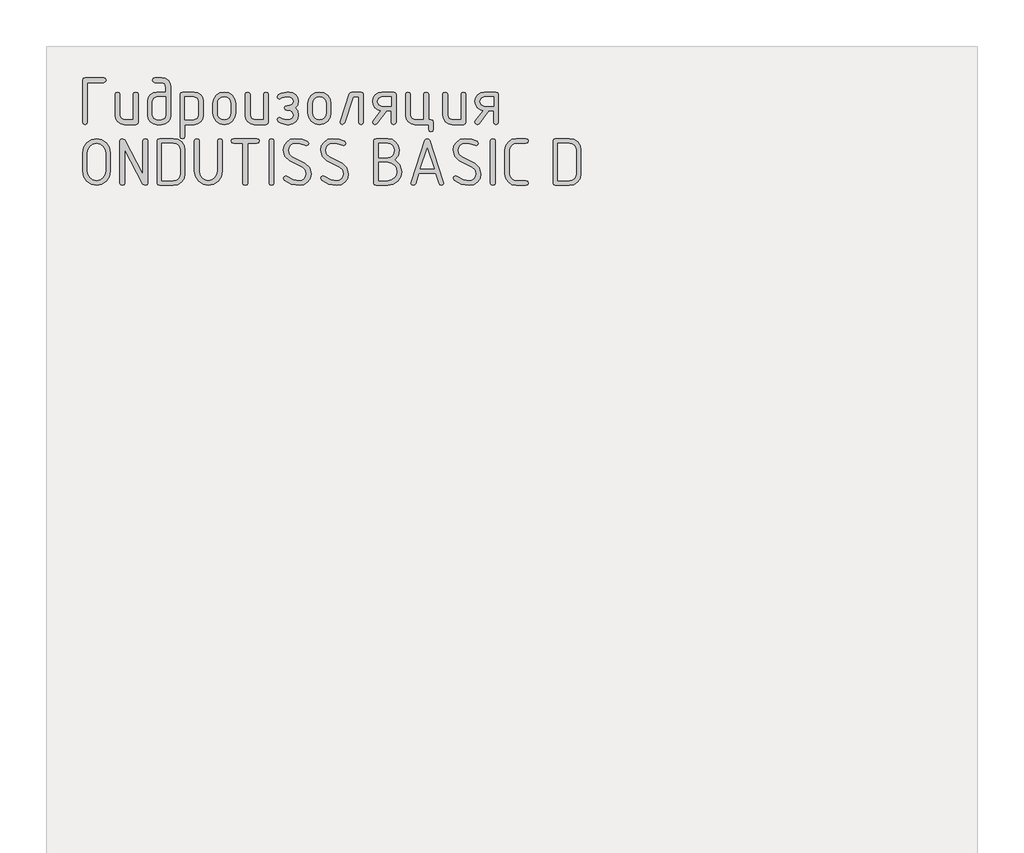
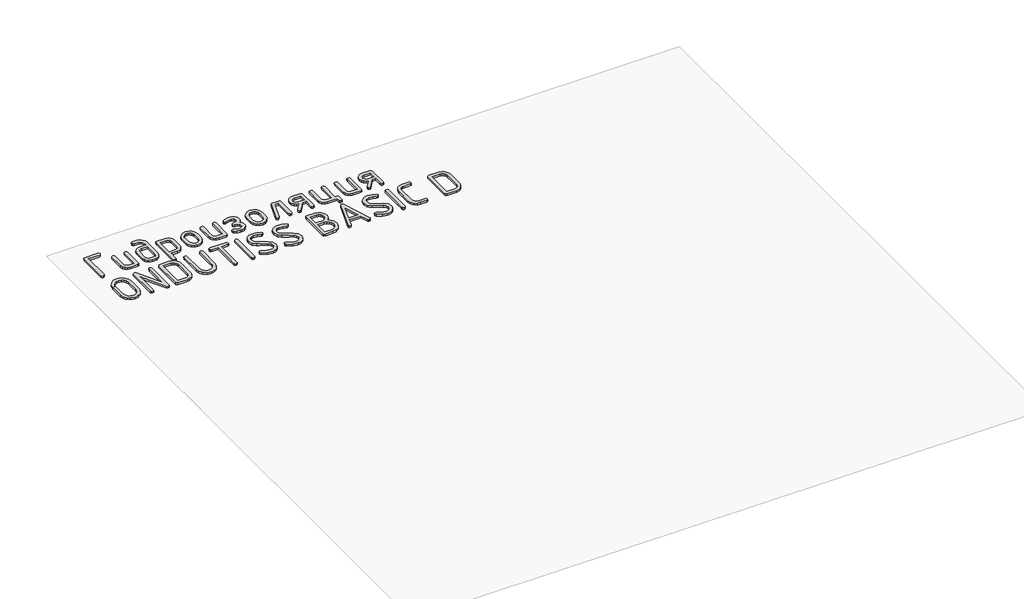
# One storey, part 31 of 42: 1 proxy.
"""IFC4 building model written with IfcOpenShell, lengths in millimetres."""

from ifc_helpers import new_model, si_unit, origin, origin_with_axes, place, context, project, spatial, polyline, outline, extrude, element, save

model = new_model("IFC4")

# Units and contexts
model_context = context("Model", 3, world=origin())
ifc_project = project(units=[si_unit("LENGTHUNIT", "METRE", prefix="MILLI")], contexts=[model_context])

# Site, building, storey
site = spatial("IfcSite", under=ifc_project)
building = spatial("IfcBuilding", under=site)
storey = spatial("IfcBuildingStorey", under=building, Name="Этаж 01", Elevation=0.0)

# Proxy
placement = place(None, origin())
element("IfcBuildingElementProxy", 1, Name="150 мм GOST Common", ObjectType="150 мм GOST Common", at=placement, inside=storey, context=model_context, shape_type="SweptSolid", body=[
    extrude(outline(polyline([(-4405.184039, -30691.2553022), (-4405.184039, -30819.2602353), (-4407.1017159, -30824.8934112), (-4412.8547466, -30826.7711365), (-4418.6077773, -30824.8834233), (-4420.5254542, -30819.2202837), (-4420.5254542, -30683.4647398), (-4418.6077773, -30677.8016002), (-4412.8547466, -30675.913887), (-4352.6876338, -30675.913887), (-4347.0544579, -30677.8315639), (-4345.1767326, -30683.5845946), (-4347.0544579, -30689.3376253), (-4352.6876338, -30691.2553022), (-4405.184039, -30691.2553022)])), origin_with_axes(), (0.0, 0.0, 1.0), 10.0),
    extrude(outline(polyline([(-4241.5422768, -30729.4090822), (-4241.5422768, -30819.3001869), (-4243.4000263, -30824.9033991), (-4248.9732748, -30826.7711365), (-4286.0483616, -30826.7711365), (-4297.5444351, -30824.6037621), (-4307.1028559, -30818.1016388), (-4313.5450517, -30808.443339), (-4315.6924503, -30796.8074349), (-4315.6924503, -30729.4090822), (-4313.7747734, -30723.80587), (-4308.0217427, -30721.9381326), (-4302.268712, -30723.80587), (-4300.3510351, -30729.4090822), (-4300.3510351, -30796.5277737), (-4296.0762137, -30807.0150692), (-4285.8486036, -30811.4297213), (-4256.883692, -30811.4297213), (-4256.883692, -30729.4090822), (-4254.9660151, -30723.80587), (-4249.2129844, -30721.9381326), (-4243.4599537, -30723.80587), (-4241.5422768, -30729.4090822)])), origin_with_axes(), (0.0, 0.0, 1.0), 10.0),
    extrude(outline(polyline([(-4136.709273, -30706.0773466), (-4136.709273, -30796.6076769), (-4138.8716535, -30808.2935205), (-4145.3587948, -30818.0217356), (-4154.9321975, -30824.5837863), (-4166.3533617, -30826.7711365), (-4181.2153577, -30826.7711365), (-4192.7114312, -30824.5887802), (-4202.269852, -30818.0417114), (-4208.7120478, -30808.3684298), (-4210.8594465, -30796.8074349), (-4210.8594465, -30751.9018342), (-4208.7170418, -30740.2659301), (-4202.2898278, -30730.6076303), (-4192.7963284, -30724.105507), (-4181.4550673, -30721.9381326), (-4152.0506882, -30721.9381326), (-4152.0506882, -30706.5967174), (-4156.2256306, -30695.6699543), (-4166.5531198, -30691.2553022), (-4188.2867913, -30691.2553022), (-4193.7102213, -30689.3376253), (-4195.5180313, -30683.5845946), (-4193.6802576, -30677.8315639), (-4188.1669365, -30675.913887), (-4166.1136521, -30675.913887), (-4154.7224516, -30678.1162191), (-4145.23894, -30684.7232153), (-4138.8416898, -30694.4664122), (-4136.709273, -30706.0773466)]), holes=[polyline([(-4152.0506882, -30796.6076769), (-4152.0506882, -30737.2795478), (-4181.0155997, -30737.2795478), (-4191.2831614, -30741.6142966), (-4195.5180313, -30752.1015922), (-4195.5180313, -30796.6076769), (-4191.2432098, -30807.0550209), (-4181.0155997, -30811.4297213), (-4166.5531198, -30811.4297213), (-4156.285558, -30807.0949725), (-4152.0506882, -30796.6076769)])]), origin_with_axes(), (0.0, 0.0, 1.0), 10.0),
    extrude(outline(polyline([(-4106.0264426, -30729.4889854), (-4104.1686931, -30723.8258458), (-4098.5954446, -30721.9381326), (-4061.5203579, -30721.9381326), (-4050.0242844, -30724.105507), (-4040.4658636, -30730.6076303), (-4034.0236678, -30740.2659301), (-4031.8762691, -30751.9018342), (-4031.8762691, -30796.8074349), (-4034.0086859, -30808.3684298), (-4040.4059362, -30818.0417114), (-4049.8894477, -30824.5887802), (-4061.2806483, -30826.7711365), (-4090.6850274, -30826.7711365), (-4090.6850274, -30865.1246745), (-4092.6027043, -30870.8777052), (-4098.355735, -30872.7953821), (-4104.1087657, -30870.9076689), (-4106.0264426, -30865.2445293), (-4106.0264426, -30729.4889854)]), holes=[polyline([(-4090.6850274, -30737.2795478), (-4090.6850274, -30811.4297213), (-4061.7201159, -30811.4297213), (-4051.4525542, -30807.0949725), (-4047.2176843, -30796.6076769), (-4047.2176843, -30752.1015922), (-4051.3926268, -30741.5543692), (-4061.7201159, -30737.2795478), (-4090.6850274, -30737.2795478)])]), origin_with_axes(), (0.0, 0.0, 1.0), 10.0),
    extrude(outline(polyline([(-4001.1934388, -30789.3364853), (-4001.1934388, -30759.3727838), (-3998.4817238, -30744.9802191), (-3990.3465788, -30732.8848716), (-3978.3660921, -30724.6748174), (-3964.118352, -30721.9381326), (-3949.7207934, -30724.6448537), (-3937.7702705, -30732.7650168), (-3929.7250166, -30744.8304006), (-3927.0432653, -30759.3727838), (-3927.0432653, -30789.3364853), (-3929.7549803, -30803.72905), (-3937.8901253, -30815.8243975), (-3949.8706119, -30824.0344517), (-3964.118352, -30826.7711365), (-3978.3660921, -30824.0344517), (-3990.3465788, -30815.8243975), (-3998.4817238, -30803.72905), (-4001.1934388, -30789.3364853)]), holes=[polyline([(-3942.3846805, -30788.8970177), (-3942.3846805, -30758.8933645), (-3943.9777506, -30750.2638185), (-3948.756961, -30742.9926269), (-3955.783449, -30738.0486162), (-3964.118352, -30736.4006126), (-3972.453255, -30738.0486162), (-3979.479743, -30742.9926269), (-3984.2589534, -30750.2638185), (-3985.8520236, -30758.8933645), (-3985.8520236, -30788.8970177), (-3984.2739353, -30797.606467), (-3979.5396704, -30804.8776585), (-3972.5281643, -30809.7917056), (-3964.118352, -30811.4297213), (-3955.783449, -30809.7817177), (-3948.756961, -30804.8377069), (-3943.9777506, -30797.5565275), (-3942.3846805, -30788.8970177)])]), origin_with_axes(), (0.0, 0.0, 1.0), 10.0),
    extrude(outline(polyline([(-3822.2102614, -30729.4090822), (-3822.2102614, -30819.3001869), (-3824.0680109, -30824.9033991), (-3829.6412594, -30826.7711365), (-3866.7163462, -30826.7711365), (-3878.2124197, -30824.6037621), (-3887.7708405, -30818.1016388), (-3894.2130363, -30808.443339), (-3896.3604349, -30796.8074349), (-3896.3604349, -30729.4090822), (-3894.442758, -30723.80587), (-3888.6897273, -30721.9381326), (-3882.9366966, -30723.80587), (-3881.0190197, -30729.4090822), (-3881.0190197, -30796.5277737), (-3876.7441983, -30807.0150692), (-3866.5165882, -30811.4297213), (-3837.5516766, -30811.4297213), (-3837.5516766, -30729.4090822), (-3835.6339997, -30723.80587), (-3829.880969, -30721.9381326), (-3824.1279383, -30723.80587), (-3822.2102614, -30729.4090822)])), origin_with_axes(), (0.0, 0.0, 1.0), 10.0),
    extrude(outline(polyline([(-3740.3893804, -30796.0483545), (-3744.3845406, -30784.7020995), (-3753.2537963, -30780.7468909), (-3762.922084, -30780.7468909), (-3768.235647, -30778.5495528), (-3770.3930336, -30773.1161349), (-3768.1757196, -30767.6627412), (-3760.7646975, -30765.4054757), (-3758.4874561, -30765.4054757), (-3756.09036, -30765.4054757), (-3744.4244922, -30761.3503881), (-3740.3893804, -30751.3425118), (-3744.7241292, -30741.3346354), (-3755.4111828, -30737.2795478), (-3762.922084, -30737.2795478), (-3778.3034508, -30741.0949258), (-3787.212658, -30744.9103038), (-3791.2078182, -30742.1736191), (-3792.9257371, -30736.9199834), (-3789.8494638, -30731.1769406), (-3780.6206437, -30726.013196), (-3762.922084, -30721.9381326), (-3755.4111828, -30721.9381326), (-3743.7253392, -30724.0555675), (-3733.9172209, -30730.4078723), (-3727.2652791, -30739.8264625), (-3725.0479652, -30751.1427537), (-3727.6947588, -30764.4366493), (-3735.6351397, -30773.0761833), (-3727.6947588, -30782.2650518), (-3725.0479652, -30796.0883061), (-3727.2652791, -30807.9888895), (-3733.9172209, -30817.881905), (-3743.7253392, -30824.5488286), (-3755.4111828, -30826.7711365), (-3762.922084, -30826.7711365), (-3780.7404985, -30822.8159279), (-3789.8794275, -30817.7420744), (-3792.9257371, -30811.7892857), (-3791.2078182, -30806.5156742), (-3787.0928032, -30803.7989653), (-3777.9638621, -30807.6143433), (-3762.922084, -30811.4297213), (-3755.4111828, -30811.4297213), (-3744.7640808, -30806.935166), (-3740.3893804, -30796.0483545)])), origin_with_axes(), (0.0, 0.0, 1.0), 10.0),
    extrude(outline(polyline([(-3694.3651348, -30789.3364853), (-3694.3651348, -30759.3727838), (-3691.6534198, -30744.9802191), (-3683.5182748, -30732.8848716), (-3671.5377882, -30724.6748174), (-3657.2900481, -30721.9381326), (-3642.8924895, -30724.6448537), (-3630.9419665, -30732.7650168), (-3622.8967126, -30744.8304006), (-3620.2149613, -30759.3727838), (-3620.2149613, -30789.3364853), (-3622.9266763, -30803.72905), (-3631.0618213, -30815.8243975), (-3643.042308, -30824.0344517), (-3657.2900481, -30826.7711365), (-3671.5377882, -30824.0344517), (-3683.5182748, -30815.8243975), (-3691.6534198, -30803.72905), (-3694.3651348, -30789.3364853)]), holes=[polyline([(-3635.5563765, -30788.8970177), (-3635.5563765, -30758.8933645), (-3637.1494467, -30750.2638185), (-3641.9286571, -30742.9926269), (-3648.9551451, -30738.0486162), (-3657.2900481, -30736.4006126), (-3665.6249511, -30738.0486162), (-3672.6514391, -30742.9926269), (-3677.4306495, -30750.2638185), (-3679.0237196, -30758.8933645), (-3679.0237196, -30788.8970177), (-3677.4456313, -30797.606467), (-3672.7113665, -30804.8776585), (-3665.6998603, -30809.7917056), (-3657.2900481, -30811.4297213), (-3648.9551451, -30809.7817177), (-3641.9286571, -30804.8377069), (-3637.1494467, -30797.5565275), (-3635.5563765, -30788.8970177)])]), origin_with_axes(), (0.0, 0.0, 1.0), 10.0),
    extrude(outline(polyline([(-3553.2161247, -30721.9381326), (-3523.0526651, -30721.9381326), (-3517.2996344, -30723.80587), (-3515.3819575, -30729.4090822), (-3515.3819575, -30819.3001869), (-3517.2996344, -30824.9033991), (-3523.0526651, -30826.7711365), (-3528.8056958, -30824.9033991), (-3530.7233727, -30819.3001869), (-3530.7233727, -30737.2795478), (-3547.86261, -30737.2795478), (-3576.1483443, -30821.697283), (-3583.2197778, -30826.7711365), (-3588.8529537, -30824.8734354), (-3590.730679, -30819.1803321), (-3590.3711146, -30816.9030908), (-3560.7270259, -30728.0507277), (-3557.8105589, -30723.4662814), (-3553.2161247, -30721.9381326)])), origin_with_axes(), (0.0, 0.0, 1.0), 10.0),
    extrude(outline(polyline([(-3459.1700534, -30781.6258261), (-3469.752234, -30778.5046072), (-3478.3268466, -30771.8576594), (-3484.004968, -30762.663797), (-3485.8976752, -30751.9018342), (-3483.7203129, -30740.2659301), (-3477.1882259, -30730.6076303), (-3467.5099503, -30724.105507), (-3455.894022, -30721.9381326), (-3418.2196612, -30721.9381326), (-3412.4666305, -30723.80587), (-3410.5489536, -30729.4090822), (-3410.5489536, -30819.3001869), (-3412.4666305, -30824.9033991), (-3418.2196612, -30826.7711365), (-3423.9726919, -30824.8934112), (-3425.8903688, -30819.2602353), (-3425.8903688, -30781.7856325), (-3441.1119292, -30781.7856325), (-3472.3540821, -30823.6948631), (-3478.386774, -30826.7711365), (-3484.0199499, -30824.9033991), (-3485.8976752, -30819.3001869), (-3484.4194659, -30814.7457043), (-3459.1700534, -30781.6258261)]), holes=[polyline([(-3470.8758728, -30752.3013502), (-3466.441245, -30762.8485732), (-3455.894022, -30767.283201), (-3425.8903688, -30767.283201), (-3425.8903688, -30737.2795478), (-3455.894022, -30737.2795478), (-3466.5011724, -30741.6542483), (-3470.8758728, -30752.3013502)])]), origin_with_axes(), (0.0, 0.0, 1.0), 10.0),
    extrude(outline(polyline([(-3298.0452422, -30811.4297213), (-3292.2922115, -30813.3473982), (-3290.3745346, -30819.1004289), (-3290.3745346, -30842.1125517), (-3292.2922115, -30847.8655824), (-3298.0452422, -30849.7832593), (-3303.7982729, -30847.8655824), (-3305.7159498, -30842.1125517), (-3305.7159498, -30826.7711365), (-3350.2220345, -30826.7711365), (-3361.718108, -30824.5887802), (-3371.2765288, -30818.0417114), (-3377.7187246, -30808.3684298), (-3379.8661233, -30796.8074349), (-3379.8661233, -30729.4090822), (-3377.9484464, -30723.80587), (-3372.1954157, -30721.9381326), (-3366.442385, -30723.80587), (-3364.5247081, -30729.4090822), (-3364.5247081, -30796.5277737), (-3360.2498866, -30807.0150692), (-3350.0222765, -30811.4297213), (-3321.057365, -30811.4297213), (-3321.057365, -30729.4090822), (-3319.1396881, -30723.80587), (-3313.3866574, -30721.9381326), (-3307.6336267, -30723.80587), (-3305.7159498, -30729.4090822), (-3305.7159498, -30811.4297213), (-3298.0452422, -30811.4297213)])), origin_with_axes(), (0.0, 0.0, 1.0), 10.0),
    extrude(outline(polyline([(-3185.5415308, -30729.4090822), (-3185.5415308, -30819.3001869), (-3187.3992802, -30824.9033991), (-3192.9725287, -30826.7711365), (-3230.0476155, -30826.7711365), (-3241.543689, -30824.6037621), (-3251.1021098, -30818.1016388), (-3257.5443056, -30808.443339), (-3259.6917042, -30796.8074349), (-3259.6917042, -30729.4090822), (-3257.7740273, -30723.80587), (-3252.0209966, -30721.9381326), (-3246.2679659, -30723.80587), (-3244.350289, -30729.4090822), (-3244.350289, -30796.5277737), (-3240.0754676, -30807.0150692), (-3229.8478575, -30811.4297213), (-3200.882946, -30811.4297213), (-3200.882946, -30729.4090822), (-3198.9652691, -30723.80587), (-3193.2122384, -30721.9381326), (-3187.4592077, -30723.80587), (-3185.5415308, -30729.4090822)])), origin_with_axes(), (0.0, 0.0, 1.0), 10.0),
    extrude(outline(polyline([(-3129.3296266, -30781.6258261), (-3139.9118072, -30778.5046072), (-3148.4864198, -30771.8576594), (-3154.1645413, -30762.663797), (-3156.0572484, -30751.9018342), (-3153.8798861, -30740.2659301), (-3147.3477992, -30730.6076303), (-3137.6695236, -30724.105507), (-3126.0535953, -30721.9381326), (-3088.3792345, -30721.9381326), (-3082.6262038, -30723.80587), (-3080.7085269, -30729.4090822), (-3080.7085269, -30819.3001869), (-3082.6262038, -30824.9033991), (-3088.3792345, -30826.7711365), (-3094.1322652, -30824.8934112), (-3096.0499421, -30819.2602353), (-3096.0499421, -30781.7856325), (-3111.2715025, -30781.7856325), (-3142.5136553, -30823.6948631), (-3148.5463472, -30826.7711365), (-3154.1795231, -30824.9033991), (-3156.0572484, -30819.3001869), (-3154.5790391, -30814.7457043), (-3129.3296266, -30781.6258261)]), holes=[polyline([(-3141.035446, -30752.3013502), (-3136.6008182, -30762.8485732), (-3126.0535953, -30767.283201), (-3096.0499421, -30767.283201), (-3096.0499421, -30737.2795478), (-3126.0535953, -30737.2795478), (-3136.6607456, -30741.6542483), (-3141.035446, -30752.3013502)])]), origin_with_axes(), (0.0, 0.0, 1.0), 10.0),
    extrude(outline(polyline([(-4331.0338655, -30977.5302169), (-4334.3098969, -30994.8991759), (-4344.137991, -31009.5314502), (-4358.6004709, -31019.4793991), (-4375.7796598, -31022.7953821), (-4392.9588487, -31019.4793991), (-4407.4213287, -31009.5314502), (-4417.2494228, -30994.8991759), (-4420.5254542, -30977.5302169), (-4420.5254542, -30917.2032978), (-4417.2494228, -30899.8343388), (-4407.4213287, -30885.2020645), (-4392.9588487, -30875.2541156), (-4375.7796598, -30871.9381326), (-4358.5255617, -30875.2391337), (-4344.0780636, -30885.1421371), (-4334.294915, -30899.7594295), (-4331.0338655, -30917.2032978), (-4331.0338655, -30977.5302169)]), holes=[polyline([(-4346.3752807, -30977.4103621), (-4346.3752807, -30917.3231526), (-4348.5076975, -30905.6772606), (-4354.9049477, -30895.9889971), (-4364.3884593, -30889.4569101), (-4375.7796598, -30887.2795478), (-4387.1708604, -30889.4569101), (-4396.6543719, -30895.9889971), (-4403.0516222, -30905.6772606), (-4405.184039, -30917.3231526), (-4405.184039, -30977.4103621), (-4403.0516222, -30989.0562541), (-4396.6543719, -30998.7445176), (-4387.1708604, -31005.2766046), (-4375.7796598, -31007.4539669), (-4364.3884593, -31005.2766046), (-4354.9049477, -30998.7445176), (-4348.5076975, -30989.0562541), (-4346.3752807, -30977.4103621)])]), origin_with_axes(), (0.0, 0.0, 1.0), 10.0),
    extrude(outline(polyline([(-4226.2008617, -30986.1198114), (-4226.2008617, -30879.4889854), (-4224.2831848, -30873.8258458), (-4218.5301541, -30871.9381326), (-4212.7771234, -30873.8258458), (-4210.8594465, -30879.4889854), (-4210.8594465, -31015.2445293), (-4212.8969782, -31020.9076689), (-4219.0095733, -31022.7953821), (-4226.2008617, -31019.0399315), (-4285.0096199, -30908.4938485), (-4285.0096199, -31015.2445293), (-4286.9272968, -31020.9076689), (-4292.6803275, -31022.7953821), (-4298.4333582, -31020.9076689), (-4300.3510351, -31015.2445293), (-4300.3510351, -30879.4889854), (-4298.353455, -30873.8258458), (-4292.3607147, -30871.9381326), (-4285.0096199, -30876.4127121), (-4226.2008617, -30986.1198114)])), origin_with_axes(), (0.0, 0.0, 1.0), 10.0),
    extrude(outline(polyline([(-4180.1766161, -30879.4889854), (-4178.3088787, -30873.8258458), (-4172.7056665, -30871.9381326), (-4127.9598721, -30871.9381326), (-4113.4874043, -30874.6648295), (-4101.47196, -30882.84492), (-4093.3817605, -30895.0001949), (-4090.6850274, -30909.652445), (-4090.6850274, -30985.0810697), (-4093.4117242, -30999.5835013), (-4101.5918148, -31011.7687399), (-4113.6372228, -31020.0387215), (-4127.9598721, -31022.7953821), (-4172.7056665, -31022.7953821), (-4178.3088787, -31020.9076689), (-4180.1766161, -31015.2445293), (-4180.1766161, -30879.4889854)]), holes=[polyline([(-4164.8352009, -30887.2795478), (-4164.8352009, -31007.4539669), (-4128.079727, -31007.4539669), (-4119.6049934, -31005.8059633), (-4112.4786263, -31000.8619525), (-4107.6394885, -30993.580773), (-4106.0264426, -30984.9212633), (-4106.0264426, -30909.8122514), (-4107.6394885, -30901.1527416), (-4112.4786263, -30893.8715622), (-4119.6049934, -30888.9275514), (-4128.079727, -30887.2795478), (-4164.8352009, -30887.2795478)])]), origin_with_axes(), (0.0, 0.0, 1.0), 10.0),
    extrude(outline(polyline([(-3970.5106084, -30879.4889854), (-3970.5106084, -30977.5302169), (-3973.7866397, -30994.8991759), (-3983.6147338, -31009.5314502), (-3998.0772138, -31019.4793991), (-4015.2564027, -31022.7953821), (-4032.4355916, -31019.4793991), (-4046.8980715, -31009.5314502), (-4056.7261656, -30994.8991759), (-4060.002197, -30977.5302169), (-4060.002197, -30879.4889854), (-4058.0845201, -30873.8258458), (-4052.3314894, -30871.9381326), (-4046.5784587, -30873.8158579), (-4044.6607818, -30879.4490338), (-4044.6607818, -30977.3304589), (-4042.5283651, -30989.0113086), (-4036.1311148, -30998.7245418), (-4026.6476032, -31005.2716106), (-4015.2564027, -31007.4539669), (-4003.8652021, -31005.2716106), (-3994.3816906, -30998.7245418), (-3987.9844403, -30989.0113086), (-3985.8520236, -30977.3304589), (-3985.8520236, -30879.4490338), (-3983.9343467, -30873.8158579), (-3978.181316, -30871.9381326), (-3972.4282853, -30873.8258458), (-3970.5106084, -30879.4889854)])), origin_with_axes(), (0.0, 0.0, 1.0), 10.0),
    extrude(outline(polyline([(-3941.5456969, -30879.6088402), (-3939.6679716, -30873.8558095), (-3934.0347957, -30871.9381326), (-3858.6860741, -30871.9381326), (-3853.082862, -30873.8558095), (-3851.2151246, -30879.6088402), (-3853.082862, -30885.3618709), (-3858.6860741, -30887.2795478), (-3888.6897273, -30887.2795478), (-3888.6897273, -31015.2844809), (-3890.6074042, -31020.9176568), (-3896.3604349, -31022.7953821), (-3902.1134656, -31020.9176568), (-3904.0311425, -31015.2844809), (-3904.0311425, -30887.2795478), (-3934.0347957, -30887.2795478), (-3939.6679716, -30885.3618709), (-3941.5456969, -30879.6088402)])), origin_with_axes(), (0.0, 0.0, 1.0), 10.0),
    extrude(outline(polyline([(-3811.9826513, -31022.7953821), (-3817.735682, -31020.9076689), (-3819.6533589, -31015.2445293), (-3819.6533589, -30879.4889854), (-3817.735682, -30873.8258458), (-3811.9826513, -30871.9381326), (-3806.2296206, -30873.8258458), (-3804.3119437, -30879.4889854), (-3804.3119437, -31015.2445293), (-3806.2296206, -31020.9076689), (-3811.9826513, -31022.7953821)])), origin_with_axes(), (0.0, 0.0, 1.0), 10.0),
    extrude(outline(polyline([(-3684.1375247, -30985.1609729), (-3686.8792034, -30999.5535376), (-3695.1042394, -31011.7287883), (-3707.1646293, -31020.0287336), (-3721.4123694, -31022.7953821), (-3747.4308503, -31018.6104518), (-3770.353082, -31006.0556608), (-3773.6291133, -30999.9430657), (-3771.4317752, -30994.6494784), (-3766.1981153, -30992.4321645), (-3761.9632455, -30993.790519), (-3741.5080253, -31004.2578387), (-3721.7319822, -31007.4539669), (-3713.1823394, -31005.8009693), (-3705.991051, -31000.8419767), (-3701.1069677, -30993.5458154), (-3699.4789399, -30984.8813117), (-3702.5652011, -30972.9158069), (-3711.8239849, -30964.665801), (-3753.5334575, -30943.0120327), (-3768.6051994, -30929.3985243), (-3773.6291133, -30909.5725418), (-3770.9024165, -30895.1799771), (-3762.722326, -30883.0047264), (-3750.7268574, -30874.7047811), (-3736.5540266, -30871.9381326), (-3713.3721095, -30874.0256038), (-3696.4026665, -30880.2880175), (-3691.9680387, -30887.2795478), (-3694.1853526, -30892.5731351), (-3699.4789399, -30894.790449), (-3702.5951648, -30893.991417), (-3719.4747167, -30888.9575151), (-3736.2344138, -30887.2795478), (-3744.7091474, -30888.9325454), (-3751.8355144, -30893.891538), (-3756.6746522, -30901.1876993), (-3758.2876981, -30909.852203), (-3755.2513764, -30921.7877441), (-3746.1424111, -30929.9478588), (-3704.4728901, -30951.6016272), (-3689.221366, -30965.3050267), (-3684.1375247, -30985.1609729)])), origin_with_axes(), (0.0, 0.0, 1.0), 10.0),
    extrude(outline(polyline([(-3563.9631056, -30985.1609729), (-3566.7047843, -30999.5535376), (-3574.9298204, -31011.7287883), (-3586.9902103, -31020.0287336), (-3601.2379504, -31022.7953821), (-3627.2564312, -31018.6104518), (-3650.1786629, -31006.0556608), (-3653.4546943, -30999.9430657), (-3651.2573562, -30994.6494784), (-3646.0236963, -30992.4321645), (-3641.7888265, -30993.790519), (-3621.3336062, -31004.2578387), (-3601.5575632, -31007.4539669), (-3593.0079203, -31005.8009693), (-3585.816632, -31000.8419767), (-3580.9325486, -30993.5458154), (-3579.3045208, -30984.8813117), (-3582.3907821, -30972.9158069), (-3591.6495659, -30964.665801), (-3633.3590384, -30943.0120327), (-3648.4307803, -30929.3985243), (-3653.4546943, -30909.5725418), (-3650.7279974, -30895.1799771), (-3642.5479069, -30883.0047264), (-3630.5524384, -30874.7047811), (-3616.3796075, -30871.9381326), (-3593.1976904, -30874.0256038), (-3576.2282475, -30880.2880175), (-3571.7936196, -30887.2795478), (-3574.0109335, -30892.5731351), (-3579.3045208, -30894.790449), (-3582.4207458, -30893.991417), (-3599.3002977, -30888.9575151), (-3616.0599947, -30887.2795478), (-3624.5347283, -30888.9325454), (-3631.6610953, -30893.891538), (-3636.5002331, -30901.1876993), (-3638.1132791, -30909.852203), (-3635.0769573, -30921.7877441), (-3625.967992, -30929.9478588), (-3584.2984711, -30951.6016272), (-3569.046947, -30965.3050267), (-3563.9631056, -30985.1609729)])), origin_with_axes(), (0.0, 0.0, 1.0), 10.0),
    extrude(outline(polyline([(-3414.5041623, -30940.175469), (-3398.1140175, -30955.9863155), (-3392.6506359, -30978.1694425), (-3395.9266673, -30995.2837101), (-3405.7547614, -31009.7112324), (-3420.2172414, -31019.5243446), (-3437.3964302, -31022.7953821), (-3474.671275, -31022.7953821), (-3480.2744872, -31020.9076689), (-3482.1422246, -31015.2445293), (-3482.1422246, -30879.4889854), (-3480.2844751, -30873.8258458), (-3474.7112266, -30871.9381326), (-3437.5162851, -30871.9381326), (-3423.0787749, -30874.714769), (-3411.0883003, -30883.044678), (-3403.0130827, -30895.4096988), (-3400.3213435, -30910.2916706), (-3403.8670482, -30926.9514887), (-3414.5041623, -30940.175469)]), holes=[polyline([(-3466.8008094, -30887.2795478), (-3466.8008094, -30933.3037934), (-3437.5961883, -30933.3037934), (-3429.1614063, -30931.6208322), (-3422.0749908, -30926.5719485), (-3417.2658167, -30919.1359565), (-3415.6627587, -30910.2916706), (-3417.2658167, -30901.4473847), (-3422.0749908, -30894.0113928), (-3429.1614063, -30888.9625091), (-3437.5961883, -30887.2795478), (-3466.8008094, -30887.2795478)]), polyline([(-3466.8008094, -30948.6452086), (-3466.8008094, -31007.4539669), (-3437.3964302, -31007.4539669), (-3426.0052297, -31005.3215501), (-3416.5217182, -30998.9242998), (-3410.1244679, -30989.4407883), (-3407.9920511, -30978.0495877), (-3410.1244679, -30966.6583872), (-3416.5217182, -30957.1748757), (-3426.0052297, -30950.7776254), (-3437.3964302, -30948.6452086), (-3466.8008094, -30948.6452086)])]), origin_with_axes(), (0.0, 0.0, 1.0), 10.0),
    extrude(outline(polyline([(-3257.2946081, -31015.2445293), (-3259.1723334, -31020.9076689), (-3264.8055093, -31022.7953821), (-3269.3300282, -31021.4869671), (-3271.956846, -31017.5617222), (-3282.7437786, -30984.4418441), (-3336.8382478, -30984.4418441), (-3347.665132, -31017.5617222), (-3350.2919498, -31021.4869671), (-3354.8164688, -31022.7953821), (-3360.4496446, -31020.9076689), (-3362.3273699, -31015.2445293), (-3361.9678055, -31012.8474332), (-3317.3019144, -30878.0107761), (-3314.4054233, -30873.4562935), (-3309.7910132, -30871.9381326), (-3305.2365306, -30873.3963661), (-3302.4399184, -30877.7710665), (-3257.6541725, -31012.8474332), (-3257.2946081, -31015.2445293)]), holes=[polyline([(-3309.7910132, -30902.9405758), (-3331.8442976, -30969.1004289), (-3287.7776805, -30969.1004289), (-3309.7910132, -30902.9405758)])]), origin_with_axes(), (0.0, 0.0, 1.0), 10.0),
    extrude(outline(polyline([(-3136.9603826, -30985.1609729), (-3139.7020613, -30999.5535376), (-3147.9270974, -31011.7287883), (-3159.9874873, -31020.0287336), (-3174.2352274, -31022.7953821), (-3200.2537082, -31018.6104518), (-3223.1759399, -31006.0556608), (-3226.4519713, -30999.9430657), (-3224.2546332, -30994.6494784), (-3219.0209733, -30992.4321645), (-3214.7861035, -30993.790519), (-3194.3308832, -31004.2578387), (-3174.5548402, -31007.4539669), (-3166.0051973, -31005.8009693), (-3158.813909, -31000.8419767), (-3153.9298256, -30993.5458154), (-3152.3017978, -30984.8813117), (-3155.3880591, -30972.9158069), (-3164.6468429, -30964.665801), (-3206.3563154, -30943.0120327), (-3221.4280573, -30929.3985243), (-3226.4519713, -30909.5725418), (-3223.7252744, -30895.1799771), (-3215.5451839, -30883.0047264), (-3203.5497154, -30874.7047811), (-3189.3768846, -30871.9381326), (-3166.1949674, -30874.0256038), (-3149.2255245, -30880.2880175), (-3144.7908966, -30887.2795478), (-3147.0082105, -30892.5731351), (-3152.3017978, -30894.790449), (-3155.4180228, -30893.991417), (-3172.2975747, -30888.9575151), (-3189.0572717, -30887.2795478), (-3197.5320053, -30888.9325454), (-3204.6583723, -30893.891538), (-3209.4975101, -30901.1876993), (-3211.1105561, -30909.852203), (-3208.0742343, -30921.7877441), (-3198.9652691, -30929.9478588), (-3157.2957481, -30951.6016272), (-3142.044224, -30965.3050267), (-3136.9603826, -30985.1609729)])), origin_with_axes(), (0.0, 0.0, 1.0), 10.0),
    extrude(outline(polyline([(-3098.6068446, -31022.7953821), (-3104.3598753, -31020.9076689), (-3106.2775522, -31015.2445293), (-3106.2775522, -30879.4889854), (-3104.3598753, -30873.8258458), (-3098.6068446, -30871.9381326), (-3092.8538139, -30873.8258458), (-3090.936137, -30879.4889854), (-3090.936137, -31015.2445293), (-3092.8538139, -31020.9076689), (-3098.6068446, -31022.7953821)])), origin_with_axes(), (0.0, 0.0, 1.0), 10.0),
    extrude(outline(polyline([(-2992.4154863, -30871.9381326), (-2986.7823104, -30873.8558095), (-2984.9045851, -30879.6088402), (-2986.7823104, -30885.3618709), (-2992.4154863, -30887.2795478), (-3022.4191395, -30887.2795478), (-3031.1235948, -30888.9275514), (-3038.3798045, -30893.8715622), (-3043.2788697, -30901.1527416), (-3044.9118914, -30909.8122514), (-3044.9118914, -30984.9212633), (-3043.2638879, -30993.580773), (-3038.3198771, -31000.8619525), (-3031.0486855, -31005.8059633), (-3022.4191395, -31007.4539669), (-2992.4154863, -31007.4539669), (-2986.7823104, -31009.3716438), (-2984.9045851, -31015.1246745), (-2986.7823104, -31020.8777052), (-2992.4154863, -31022.7953821), (-3022.4191395, -31022.7953821), (-3036.8866134, -31020.0387215), (-3049.1267855, -31011.7687399), (-3057.4716763, -30999.5835013), (-3060.2533066, -30985.0810697), (-3060.2533066, -30909.652445), (-3057.4716763, -30895.1500134), (-3049.1267855, -30882.9647748), (-3036.8866134, -30874.6947932), (-3022.4191395, -30871.9381326), (-2992.4154863, -30871.9381326)])), origin_with_axes(), (0.0, 0.0, 1.0), 10.0),
    extrude(outline(polyline([(-2904.2822521, -30879.4889854), (-2902.4145147, -30873.8258458), (-2896.8113025, -30871.9381326), (-2852.0655082, -30871.9381326), (-2837.5930404, -30874.6648295), (-2825.577596, -30882.84492), (-2817.4873966, -30895.0001949), (-2814.7906635, -30909.652445), (-2814.7906635, -30985.0810697), (-2817.5173603, -30999.5835013), (-2825.6974508, -31011.7687399), (-2837.7428589, -31020.0387215), (-2852.0655082, -31022.7953821), (-2896.8113025, -31022.7953821), (-2902.4145147, -31020.9076689), (-2904.2822521, -31015.2445293), (-2904.2822521, -30879.4889854)]), holes=[polyline([(-2888.9408369, -30887.2795478), (-2888.9408369, -31007.4539669), (-2852.185363, -31007.4539669), (-2843.7106294, -31005.8059633), (-2836.5842624, -31000.8619525), (-2831.7451246, -30993.580773), (-2830.1320787, -30984.9212633), (-2830.1320787, -30909.8122514), (-2831.7451246, -30901.1527416), (-2836.5842624, -30893.8715622), (-2843.7106294, -30888.9275514), (-2852.185363, -30887.2795478), (-2888.9408369, -30887.2795478)])]), origin_with_axes(), (0.0, 0.0, 1.0), 10.0),
])

save(model, "model.ifc")
